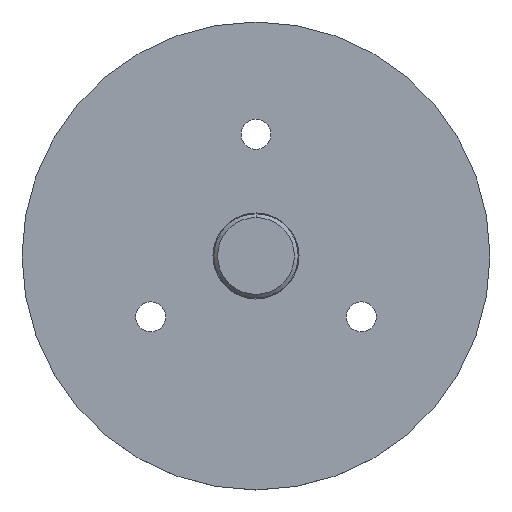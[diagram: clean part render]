
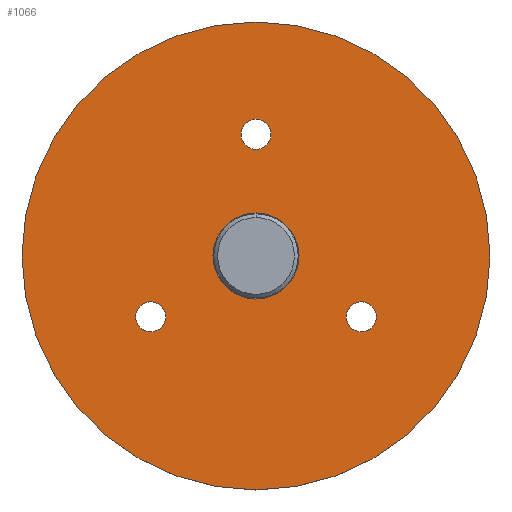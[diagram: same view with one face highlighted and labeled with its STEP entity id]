
A CAD part, top view. The second image highlights one B-rep face of the part: STEP entity #1066.
In plain terms, the highlighted planar face has unit normal (0, 0, 1).
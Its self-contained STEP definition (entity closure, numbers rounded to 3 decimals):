
#14 = AXIS2_PLACEMENT_3D ( 'NONE', #82, #1053, #593 ) ;
#26 = DIRECTION ( 'NONE',  ( 0., 0., 1. ) ) ;
#33 = CARTESIAN_POINT ( 'NONE',  ( 8., 65., 6. ) ) ;
#37 = DIRECTION ( 'NONE',  ( 1., 0., 0. ) ) ;
#45 = AXIS2_PLACEMENT_3D ( 'NONE', #183, #269, #892 ) ;
#82 = CARTESIAN_POINT ( 'NONE',  ( 0., 0., 6. ) ) ;
#87 = FACE_BOUND ( 'NONE', #493, .T. ) ;
#102 = CARTESIAN_POINT ( 'NONE',  ( 23., 0., 6. ) ) ;
#103 = ORIENTED_EDGE ( 'NONE', *, *, #423, .T. ) ;
#112 = EDGE_CURVE ( 'NONE', #877, #1006, #650, .T. ) ;
#124 = PLANE ( 'NONE',  #170 ) ;
#128 = DIRECTION ( 'NONE',  ( 0., 0., 1. ) ) ;
#130 = AXIS2_PLACEMENT_3D ( 'NONE', #278, #365, #201 ) ;
#141 = CIRCLE ( 'NONE', #130, 8. ) ;
#170 = AXIS2_PLACEMENT_3D ( 'NONE', #755, #128, #37 ) ;
#183 = CARTESIAN_POINT ( 'NONE',  ( 0., 65., 6. ) ) ;
#186 = CARTESIAN_POINT ( 'NONE',  ( 125., 0., 6. ) ) ;
#191 = CARTESIAN_POINT ( 'NONE',  ( -8., 65., 6. ) ) ;
#193 = AXIS2_PLACEMENT_3D ( 'NONE', #466, #26, #538 ) ;
#201 = DIRECTION ( 'NONE',  ( 1., 0., 0. ) ) ;
#213 = DIRECTION ( 'NONE',  ( 1., 0., 0. ) ) ;
#215 = ORIENTED_EDGE ( 'NONE', *, *, #826, .F. ) ;
#219 = CIRCLE ( 'NONE', #14, 23. ) ;
#221 = CARTESIAN_POINT ( 'NONE',  ( 48.292, -32.5, 6. ) ) ;
#235 = CIRCLE ( 'NONE', #193, 125. ) ;
#241 = CARTESIAN_POINT ( 'NONE',  ( -23., 0., 6. ) ) ;
#260 = DIRECTION ( 'NONE',  ( 0., 0., 1. ) ) ;
#269 = DIRECTION ( 'NONE',  ( 0., 0., 1. ) ) ;
#270 = EDGE_LOOP ( 'NONE', ( #752, #215 ) ) ;
#278 = CARTESIAN_POINT ( 'NONE',  ( -56.292, -32.5, 6. ) ) ;
#286 = AXIS2_PLACEMENT_3D ( 'NONE', #689, #488, #312 ) ;
#298 = DIRECTION ( 'NONE',  ( 0., 0., 1. ) ) ;
#312 = DIRECTION ( 'NONE',  ( 1., 0., 0. ) ) ;
#330 = ORIENTED_EDGE ( 'NONE', *, *, #600, .F. ) ;
#345 = FACE_BOUND ( 'NONE', #464, .T. ) ;
#359 = VERTEX_POINT ( 'NONE', #102 ) ;
#361 = CARTESIAN_POINT ( 'NONE',  ( -64.292, -32.5, 6. ) ) ;
#365 = DIRECTION ( 'NONE',  ( 0., 0., 1. ) ) ;
#377 = EDGE_LOOP ( 'NONE', ( #478, #103 ) ) ;
#390 = EDGE_CURVE ( 'NONE', #975, #722, #453, .T. ) ;
#400 = CIRCLE ( 'NONE', #286, 8. ) ;
#403 = CARTESIAN_POINT ( 'NONE',  ( 56.292, -32.5, 6. ) ) ;
#408 = VERTEX_POINT ( 'NONE', #555 ) ;
#420 = CARTESIAN_POINT ( 'NONE',  ( 0., 65., 6. ) ) ;
#422 = ORIENTED_EDGE ( 'NONE', *, *, #112, .F. ) ;
#423 = EDGE_CURVE ( 'NONE', #974, #408, #723, .T. ) ;
#453 = CIRCLE ( 'NONE', #703, 8. ) ;
#464 = EDGE_LOOP ( 'NONE', ( #533, #764 ) ) ;
#466 = CARTESIAN_POINT ( 'NONE',  ( 0., 0., 6. ) ) ;
#478 = ORIENTED_EDGE ( 'NONE', *, *, #880, .T. ) ;
#488 = DIRECTION ( 'NONE',  ( 0., 0., 1. ) ) ;
#493 = EDGE_LOOP ( 'NONE', ( #1071, #330 ) ) ;
#533 = ORIENTED_EDGE ( 'NONE', *, *, #1098, .F. ) ;
#538 = DIRECTION ( 'NONE',  ( 1., 0., 0. ) ) ;
#555 = CARTESIAN_POINT ( 'NONE',  ( -125., 0., 6. ) ) ;
#562 = DIRECTION ( 'NONE',  ( 0., 0., 1. ) ) ;
#590 = ORIENTED_EDGE ( 'NONE', *, *, #720, .F. ) ;
#593 = DIRECTION ( 'NONE',  ( 1., 0., 0. ) ) ;
#600 = EDGE_CURVE ( 'NONE', #907, #1056, #400, .T. ) ;
#607 = AXIS2_PLACEMENT_3D ( 'NONE', #933, #749, #213 ) ;
#628 = AXIS2_PLACEMENT_3D ( 'NONE', #420, #260, #971 ) ;
#633 = FACE_BOUND ( 'NONE', #777, .T. ) ;
#634 = CARTESIAN_POINT ( 'NONE',  ( 64.292, -32.5, 6. ) ) ;
#650 = CIRCLE ( 'NONE', #45, 8. ) ;
#689 = CARTESIAN_POINT ( 'NONE',  ( 56.292, -32.5, 6. ) ) ;
#703 = AXIS2_PLACEMENT_3D ( 'NONE', #1117, #562, #1015 ) ;
#720 = EDGE_CURVE ( 'NONE', #1006, #877, #851, .T. ) ;
#722 = VERTEX_POINT ( 'NONE', #785 ) ;
#723 = CIRCLE ( 'NONE', #1064, 125. ) ;
#725 = EDGE_CURVE ( 'NONE', #359, #787, #219, .T. ) ;
#749 = DIRECTION ( 'NONE',  ( 0., 0., 1. ) ) ;
#752 = ORIENTED_EDGE ( 'NONE', *, *, #390, .F. ) ;
#755 = CARTESIAN_POINT ( 'NONE',  ( 0., 0., 6. ) ) ;
#764 = ORIENTED_EDGE ( 'NONE', *, *, #725, .F. ) ;
#777 = EDGE_LOOP ( 'NONE', ( #422, #590 ) ) ;
#785 = CARTESIAN_POINT ( 'NONE',  ( -48.292, -32.5, 6. ) ) ;
#787 = VERTEX_POINT ( 'NONE', #241 ) ;
#826 = EDGE_CURVE ( 'NONE', #722, #975, #141, .T. ) ;
#851 = CIRCLE ( 'NONE', #628, 8. ) ;
#866 = FACE_BOUND ( 'NONE', #270, .T. ) ;
#870 = DIRECTION ( 'NONE',  ( 1., 0., 0. ) ) ;
#877 = VERTEX_POINT ( 'NONE', #191 ) ;
#880 = EDGE_CURVE ( 'NONE', #408, #974, #235, .T. ) ;
#892 = DIRECTION ( 'NONE',  ( 1., 0., 0. ) ) ;
#907 = VERTEX_POINT ( 'NONE', #634 ) ;
#933 = CARTESIAN_POINT ( 'NONE',  ( 0., 0., 6. ) ) ;
#955 = DIRECTION ( 'NONE',  ( 0., 0., 1. ) ) ;
#971 = DIRECTION ( 'NONE',  ( 1., 0., 0. ) ) ;
#974 = VERTEX_POINT ( 'NONE', #186 ) ;
#975 = VERTEX_POINT ( 'NONE', #361 ) ;
#1006 = VERTEX_POINT ( 'NONE', #33 ) ;
#1015 = DIRECTION ( 'NONE',  ( 1., 0., 0. ) ) ;
#1027 = DIRECTION ( 'NONE',  ( 1., 0., 0. ) ) ;
#1040 = FACE_OUTER_BOUND ( 'NONE', #377, .T. ) ;
#1053 = DIRECTION ( 'NONE',  ( 0., 0., 1. ) ) ;
#1056 = VERTEX_POINT ( 'NONE', #221 ) ;
#1064 = AXIS2_PLACEMENT_3D ( 'NONE', #1113, #298, #1027 ) ;
#1066 = ADVANCED_FACE ( 'NONE', ( #87, #345, #1040, #633, #866 ), #124, .T. ) ;
#1071 = ORIENTED_EDGE ( 'NONE', *, *, #1142, .F. ) ;
#1078 = CIRCLE ( 'NONE', #1096, 8. ) ;
#1091 = CIRCLE ( 'NONE', #607, 23. ) ;
#1096 = AXIS2_PLACEMENT_3D ( 'NONE', #403, #955, #870 ) ;
#1098 = EDGE_CURVE ( 'NONE', #787, #359, #1091, .T. ) ;
#1113 = CARTESIAN_POINT ( 'NONE',  ( 0., 0., 6. ) ) ;
#1117 = CARTESIAN_POINT ( 'NONE',  ( -56.292, -32.5, 6. ) ) ;
#1142 = EDGE_CURVE ( 'NONE', #1056, #907, #1078, .T. ) ;
